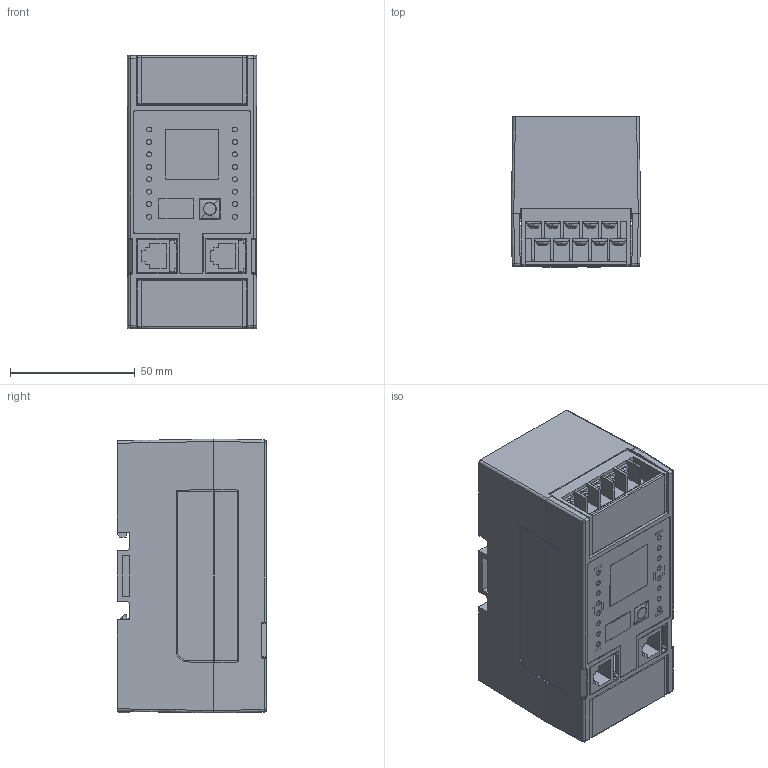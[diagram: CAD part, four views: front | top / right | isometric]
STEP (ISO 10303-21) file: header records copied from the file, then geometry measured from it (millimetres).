
FILE_DESCRIPTION(/* description */ (''),/* implementation_level */ '2;1');
FILE_NAME(/* name */ 'AFA1NO~Y',/* time_stamp */ '2016-07-07T20:25:23+09:00',/* author */ (''),/* organization */ (''),/* preprocessor_version */ 'ST-DEVELOPER v15',/* originating_system */ '',/* authorisation */ '');
FILE_SCHEMA (('CONFIG_CONTROL_DESIGN'));
Length unit declared in the file: millimetre
Products named in the file (20): Document; case-top Ass''y; sheet Ass''y; sheet; sheet tape; sn; LED-boss; case-top; Name-Plate; case-bottom; spring; Hook; 2X5 terminal(DG24-1) ass''y.SLDPRT; round cross head screw_ks_KS 1023 RC - M3 x 5-N; Press1; 2X5 terminal cover(DG24-1); 2X5 terminal(DG24-1); lcd-basic; RJ12(DEK623PCB6-NF); 1102SJ
Assembly tree (41 placements, depth 4):
  Document
    case-top Ass''y
      sheet Ass''y
        sheet
        sheet tape
      sn
      LED-boss  x2
      case-top
    Name-Plate  x2
    case-bottom
    spring
    Hook
    2X5 terminal(DG24-1) ass''y.SLDPRT  x2
      round cross head screw_ks_KS 1023 RC - M3 x 5-N
      Press1
      2X5 terminal cover(DG24-1)
      2X5 terminal(DG24-1)
    lcd-basic
    RJ12(DEK623PCB6-NF)  x2
    1102SJ
Bounding box: 52 x 60.2 x 110 mm (x, y, z)
Volume: 89072.8 mm3; surface area: 110935 mm2
Topology: 61 solids, 61 shells, 2835 faces, 7229 edges, 4656 vertices
Faces by surface type: plane 1804, bspline 1031
Entity records: 61602 total; most frequent: CARTESIAN_POINT 30705, ORIENTED_EDGE 8842, EDGE_CURVE 4421, B_SPLINE_CURVE_WITH_KNOTS 3495, VERTEX_POINT 2885, EDGE_LOOP 1972, ADVANCED_FACE 1712, FACE_OUTER_BOUND 1712
